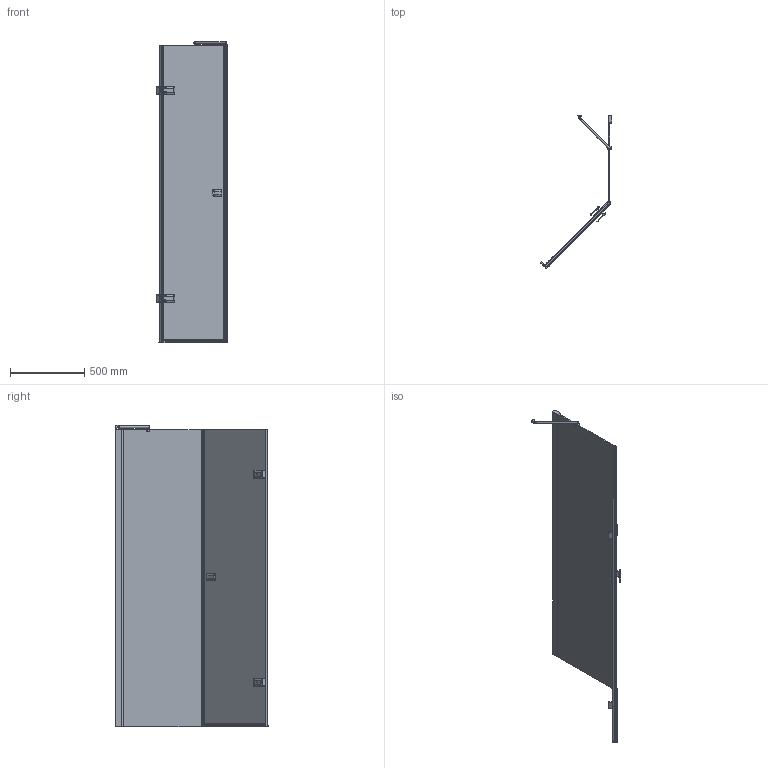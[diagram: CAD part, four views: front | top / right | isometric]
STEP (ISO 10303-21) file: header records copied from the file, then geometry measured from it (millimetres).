
FILE_DESCRIPTION(/* description */ (''),/* implementation_level */ '2;1');
FILE_NAME(/* name */ 'E:\Работа\Сергей\Душевые кабинки\! Работа\TREND DOOR GK-862BGP135TWO-01\TREND DOOR GK-862BGP135TWO-01 левая модель\TREND DOOR GK-862BGP135TWO-01 ЛЕВАЯ-3D.stp',/* time_stamp */ '2018-03-07T15:27:27+03:00',/* author */ ('PC'),/* organization */ (''),/* preprocessor_version */ 'ST-DEVELOPER v15.2',/* originating_system */ 'Autodesk Inventor 2014',/* authorisation */ '');
FILE_SCHEMA (('AUTOMOTIVE_DESIGN { 1 0 10303 214 3 1 1 }'));
Length unit declared in the file: millimetre
Products named in the file (1): TREND DOOR GK-862BGP135TWO-01 \X2\041B041504120410042F
\X0\-3D
Bounding box: 480.29 x 1032.18 x 2031.49 mm (x, y, z)
Volume: 19028259 mm3; surface area: 5252597.2 mm2
Topology: 5 solids, 5 shells, 730 faces, 2080 edges, 1423 vertices
Faces by surface type: plane 454, cylinder 197, bspline 52, torus 21, sphere 6
Full cylindrical faces by diameter (mm): 12 x3, 15 x1, 20 x2, 26 x1
Entity records: 25918 total; most frequent: CARTESIAN_POINT 6528, ORIENTED_EDGE 3872, DIRECTION 3791, EDGE_CURVE 1936, LINE 1455, VECTOR 1455, VERTEX_POINT 1225, AXIS2_PLACEMENT_3D 1168
